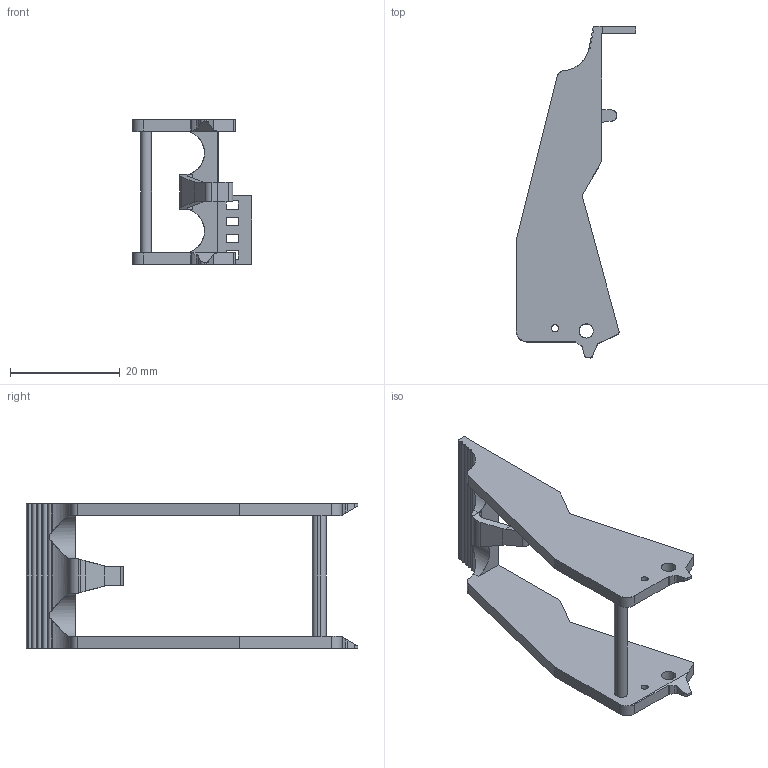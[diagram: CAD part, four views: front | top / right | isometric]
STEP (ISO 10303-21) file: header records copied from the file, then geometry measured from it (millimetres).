
FILE_DESCRIPTION(('STEP AP214'),'2;1');
FILE_NAME('094931---skin.stp','2010-04-28T11:44:09',(''),(''),'2007.1.106','THINKDESIGN','');
FILE_SCHEMA(('AUTOMOTIVE_DESIGN'));
Length unit declared in the file: millimetre
Products named in the file (1): None
Bounding box: 21.76 x 60.56 x 26.4 mm (x, y, z)
Surface area: 4313.3 mm2 (no closed solid volume)
Topology: 0 solids, 0 shells, 112 faces, 674 edges, 674 vertices
Faces by surface type: plane 65, cylinder 47
Full cylindrical faces by diameter (mm): 1.3 x2, 2.6 x2
Entity records: 6659 total; most frequent: CARTESIAN_POINT 2006, DIRECTION 844, COMPOSITE_CURVE_SEGMENT 674, TRIMMED_CURVE 536, VECTOR 452, LINE 452, AXIS2_PLACEMENT_3D 196, OUTER_BOUNDARY_CURVE 112
